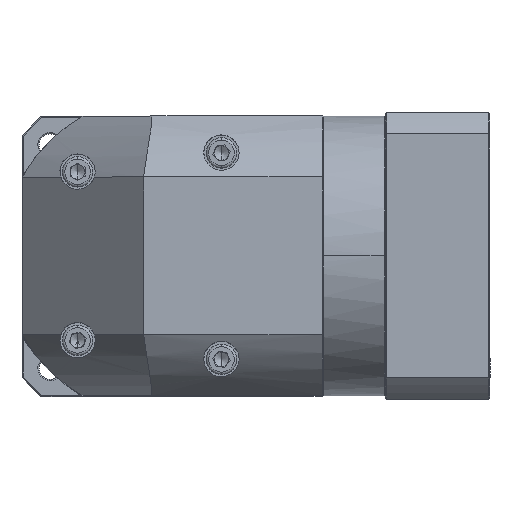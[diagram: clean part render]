
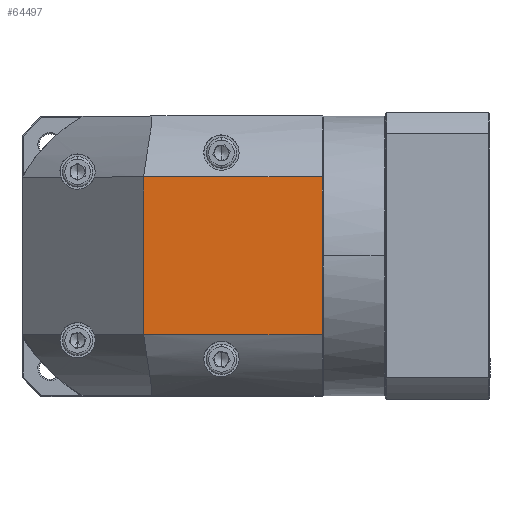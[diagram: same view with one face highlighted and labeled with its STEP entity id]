
A CAD part, top view. The second image highlights one B-rep face of the part: STEP entity #64497.
In plain terms, the highlighted planar face has unit normal (0, 0, 1).
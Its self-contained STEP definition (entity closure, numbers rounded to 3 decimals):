
#1017 = ORIENTED_EDGE ( 'NONE', *, *, #127457, .F. ) ;
#1886 = LINE ( 'NONE', #7833, #85026 ) ;
#7833 = CARTESIAN_POINT ( 'NONE',  ( -13.277, 107.124, 83.721 ) ) ;
#13157 = DIRECTION ( 'NONE',  ( -1., 0., 0. ) ) ;
#14885 = CARTESIAN_POINT ( 'NONE',  ( 36.723, 132.224, 83.721 ) ) ;
#19918 = CARTESIAN_POINT ( 'NONE',  ( 36.723, 42.324, 83.721 ) ) ;
#20384 = CARTESIAN_POINT ( 'NONE',  ( 110.123, 107.124, 83.721 ) ) ;
#22231 = CARTESIAN_POINT ( 'NONE',  ( 36.723, 107.124, 83.721 ) ) ;
#25530 = VERTEX_POINT ( 'NONE', #19918 ) ;
#33850 = PLANE ( 'NONE',  #77851 ) ;
#34989 = CARTESIAN_POINT ( 'NONE',  ( -13.277, 42.324, 83.721 ) ) ;
#36230 = EDGE_CURVE ( 'NONE', #127750, #68711, #1886, .T. ) ;
#39932 = DIRECTION ( 'NONE',  ( 1., 0., 0. ) ) ;
#54297 = EDGE_LOOP ( 'NONE', ( #75959, #1017, #72208, #105421 ) ) ;
#64497 = ADVANCED_FACE ( 'NONE', ( #106557 ), #33850, .F. ) ;
#64721 = EDGE_CURVE ( 'NONE', #68711, #120529, #81366, .T. ) ;
#64729 = LINE ( 'NONE', #14885, #99497 ) ;
#65026 = DIRECTION ( 'NONE',  ( 0., -1., 0. ) ) ;
#68545 = EDGE_CURVE ( 'NONE', #120529, #25530, #128949, .T. ) ;
#68711 = VERTEX_POINT ( 'NONE', #20384 ) ;
#70927 = VECTOR ( 'NONE', #13157, 1000. ) ;
#72208 = ORIENTED_EDGE ( 'NONE', *, *, #68545, .F. ) ;
#74808 = VECTOR ( 'NONE', #104277, 1000. ) ;
#75959 = ORIENTED_EDGE ( 'NONE', *, *, #36230, .F. ) ;
#77851 = AXIS2_PLACEMENT_3D ( 'NONE', #86286, #96914, #65026 ) ;
#79192 = CARTESIAN_POINT ( 'NONE',  ( 110.123, 42.324, 83.721 ) ) ;
#81366 = LINE ( 'NONE', #82937, #74808 ) ;
#82937 = CARTESIAN_POINT ( 'NONE',  ( 110.123, 132.224, 83.721 ) ) ;
#85026 = VECTOR ( 'NONE', #39932, 1000. ) ;
#86286 = CARTESIAN_POINT ( 'NONE',  ( 44.223, 74.724, 83.721 ) ) ;
#96914 = DIRECTION ( 'NONE',  ( 0., 0., -1. ) ) ;
#99497 = VECTOR ( 'NONE', #110032, 1000. ) ;
#104277 = DIRECTION ( 'NONE',  ( 0., -1., 0. ) ) ;
#105421 = ORIENTED_EDGE ( 'NONE', *, *, #64721, .F. ) ;
#106557 = FACE_OUTER_BOUND ( 'NONE', #54297, .T. ) ;
#110032 = DIRECTION ( 'NONE',  ( 0., 1., 0. ) ) ;
#120529 = VERTEX_POINT ( 'NONE', #79192 ) ;
#127457 = EDGE_CURVE ( 'NONE', #25530, #127750, #64729, .T. ) ;
#127750 = VERTEX_POINT ( 'NONE', #22231 ) ;
#128949 = LINE ( 'NONE', #34989, #70927 ) ;
